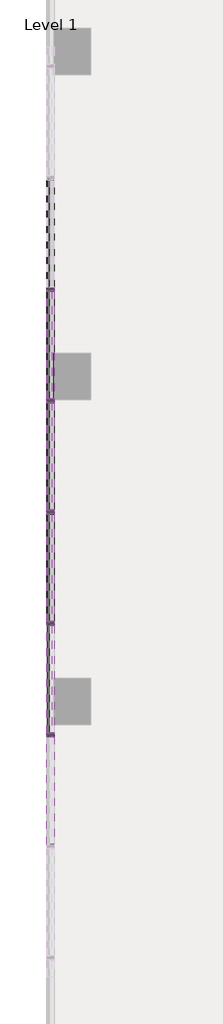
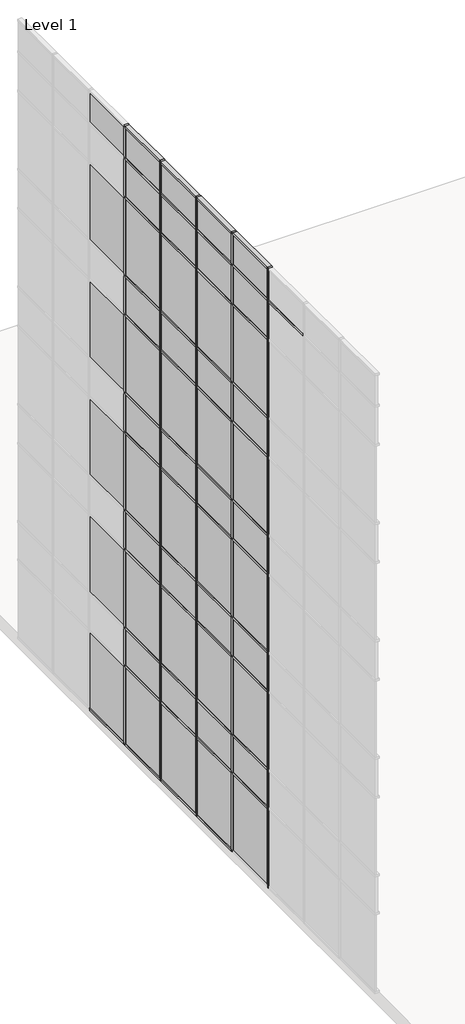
# One storey, part 3 of 23: 79 members, 50 plates.
"""IFC4 building model written with IfcOpenShell, lengths in millimetres."""

from ifc_helpers import new_model, si_unit, origin, place, context, project, spatial, transform, mapped, element, save
from components import member_f92b8aa2, member_810865a4, member_6d5c3e5e, member_9764dd38, system_panel_glazed_14c75400, system_panel_solid_5dfe6f83, system_panel_solid_e25e2004, system_panel_solid_b7551183

model = new_model("IFC4")

# Units and contexts
model_context = context("Model", 3, world=origin())
ifc_project = project(units=[si_unit("LENGTHUNIT", "METRE", prefix="MILLI")], contexts=[model_context])

# Site, building, storey
site = spatial("IfcSite", under=ifc_project)
building = spatial("IfcBuilding", under=site)
storey = spatial("IfcBuildingStorey", under=building, Name="Level 1", Elevation=0.0)

# Members
placement = place(None, origin())
member_shape = member_f92b8aa2(model_context)
element("IfcMember", 1, ObjectType="Rectangular Mullion : 2.5\" x 5\" rectangular", at=placement, inside=storey, context=model_context, shape_type="MappedRepresentation", body=[
    mapped(member_shape, transform((-68724.2599961, -14912.3103492, 18288.0), x_axis=(0.0, 1.0, 0.0), y_axis=(1.0, 0.0, 0.0), z_axis=(0.0, 0.0, -1.0))),
])
element("IfcMember", 2, ObjectType="Rectangular Mullion : 2.5\" x 5\" rectangular", at=placement, inside=storey, context=model_context, shape_type="MappedRepresentation", body=[
    mapped(member_shape, transform((-68724.2599961, -13083.5103492, 18288.0), x_axis=(0.0, 1.0, 0.0), y_axis=(1.0, 0.0, 0.0), z_axis=(0.0, 0.0, -1.0))),
])
element("IfcMember", 3, ObjectType="Rectangular Mullion : 2.5\" x 5\" rectangular", at=placement, inside=storey, context=model_context, shape_type="MappedRepresentation", body=[
    mapped(member_shape, transform((-68724.2599961, -11254.7103492, 18288.0), x_axis=(0.0, 1.0, 0.0), y_axis=(1.0, 0.0, 0.0), z_axis=(0.0, 0.0, -1.0))),
])
element("IfcMember", 4, ObjectType="Rectangular Mullion : 2.5\" x 5\" rectangular", at=placement, inside=storey, context=model_context, shape_type="MappedRepresentation", body=[
    mapped(member_shape, transform((-68724.2599961, -9425.9103492, 18288.0), x_axis=(0.0, 1.0, 0.0), y_axis=(1.0, 0.0, 0.0), z_axis=(0.0, 0.0, -1.0))),
])
element("IfcMember", 5, ObjectType="Rectangular Mullion : 2.5\" x 5\" rectangular", at=placement, inside=storey, context=model_context, shape_type="MappedRepresentation", body=[
    mapped(member_shape, transform((-68724.2599961, -7597.1103492, 18288.0), x_axis=(0.0, 1.0, 0.0), y_axis=(1.0, 0.0, 0.0), z_axis=(0.0, 0.0, -1.0))),
])
member_2_shape = member_810865a4(model_context)
element("IfcMember", 6, ObjectType="Rectangular Mullion : 2.5\" x 5\" rectangular", at=placement, inside=storey, context=model_context, shape_type="MappedRepresentation", body=[
    mapped(member_2_shape, transform((-68724.2599961, -14912.3103492, 3657.6), x_axis=(0.0, 1.0, 0.0), y_axis=(1.0, 0.0, 0.0), z_axis=(0.0, 0.0, -1.0))),
])
element("IfcMember", 7, ObjectType="Rectangular Mullion : 2.5\" x 5\" rectangular", at=placement, inside=storey, context=model_context, shape_type="MappedRepresentation", body=[
    mapped(member_2_shape, transform((-68724.2599961, -13083.5103492, 3657.6), x_axis=(0.0, 1.0, 0.0), y_axis=(1.0, 0.0, 0.0), z_axis=(0.0, 0.0, -1.0))),
])
element("IfcMember", 8, ObjectType="Rectangular Mullion : 2.5\" x 5\" rectangular", at=placement, inside=storey, context=model_context, shape_type="MappedRepresentation", body=[
    mapped(member_2_shape, transform((-68724.2599961, -11254.7103492, 3657.6), x_axis=(0.0, 1.0, 0.0), y_axis=(1.0, 0.0, 0.0), z_axis=(0.0, 0.0, -1.0))),
])
element("IfcMember", 9, ObjectType="Rectangular Mullion : 2.5\" x 5\" rectangular", at=placement, inside=storey, context=model_context, shape_type="MappedRepresentation", body=[
    mapped(member_2_shape, transform((-68724.2599961, -9425.9103492, 3657.6), x_axis=(0.0, 1.0, 0.0), y_axis=(1.0, 0.0, 0.0), z_axis=(0.0, 0.0, -1.0))),
])
element("IfcMember", 10, ObjectType="Rectangular Mullion : 2.5\" x 5\" rectangular", at=placement, inside=storey, context=model_context, shape_type="MappedRepresentation", body=[
    mapped(member_2_shape, transform((-68724.2599961, -7597.1103492, 3657.6), x_axis=(0.0, 1.0, 0.0), y_axis=(1.0, 0.0, 0.0), z_axis=(0.0, 0.0, -1.0))),
])
element("IfcMember", 11, ObjectType="Rectangular Mullion : 2.5\" x 5\" rectangular", at=placement, inside=storey, context=model_context, shape_type="MappedRepresentation", body=[
    mapped(member_2_shape, transform((-68724.2599961, -14912.3103492, 7315.2), x_axis=(0.0, 1.0, 0.0), y_axis=(1.0, 0.0, 0.0), z_axis=(0.0, 0.0, -1.0))),
])
element("IfcMember", 12, ObjectType="Rectangular Mullion : 2.5\" x 5\" rectangular", at=placement, inside=storey, context=model_context, shape_type="MappedRepresentation", body=[
    mapped(member_2_shape, transform((-68724.2599961, -13083.5103492, 7315.2), x_axis=(0.0, 1.0, 0.0), y_axis=(1.0, 0.0, 0.0), z_axis=(0.0, 0.0, -1.0))),
])
element("IfcMember", 13, ObjectType="Rectangular Mullion : 2.5\" x 5\" rectangular", at=placement, inside=storey, context=model_context, shape_type="MappedRepresentation", body=[
    mapped(member_2_shape, transform((-68724.2599961, -11254.7103492, 7315.2), x_axis=(0.0, 1.0, 0.0), y_axis=(1.0, 0.0, 0.0), z_axis=(0.0, 0.0, -1.0))),
])
element("IfcMember", 14, ObjectType="Rectangular Mullion : 2.5\" x 5\" rectangular", at=placement, inside=storey, context=model_context, shape_type="MappedRepresentation", body=[
    mapped(member_2_shape, transform((-68724.2599961, -9425.9103492, 7315.2), x_axis=(0.0, 1.0, 0.0), y_axis=(1.0, 0.0, 0.0), z_axis=(0.0, 0.0, -1.0))),
])
element("IfcMember", 15, ObjectType="Rectangular Mullion : 2.5\" x 5\" rectangular", at=placement, inside=storey, context=model_context, shape_type="MappedRepresentation", body=[
    mapped(member_2_shape, transform((-68724.2599961, -7597.1103492, 7315.2), x_axis=(0.0, 1.0, 0.0), y_axis=(1.0, 0.0, 0.0), z_axis=(0.0, 0.0, -1.0))),
])
element("IfcMember", 16, ObjectType="Rectangular Mullion : 2.5\" x 5\" rectangular", at=placement, inside=storey, context=model_context, shape_type="MappedRepresentation", body=[
    mapped(member_2_shape, transform((-68724.2599961, -14912.3103492, 10972.8), x_axis=(0.0, 1.0, 0.0), y_axis=(1.0, 0.0, 0.0), z_axis=(0.0, 0.0, -1.0))),
])
element("IfcMember", 17, ObjectType="Rectangular Mullion : 2.5\" x 5\" rectangular", at=placement, inside=storey, context=model_context, shape_type="MappedRepresentation", body=[
    mapped(member_2_shape, transform((-68724.2599961, -13083.5103492, 10972.8), x_axis=(0.0, 1.0, 0.0), y_axis=(1.0, 0.0, 0.0), z_axis=(0.0, 0.0, -1.0))),
])
element("IfcMember", 18, ObjectType="Rectangular Mullion : 2.5\" x 5\" rectangular", at=placement, inside=storey, context=model_context, shape_type="MappedRepresentation", body=[
    mapped(member_2_shape, transform((-68724.2599961, -11254.7103492, 10972.8), x_axis=(0.0, 1.0, 0.0), y_axis=(1.0, 0.0, 0.0), z_axis=(0.0, 0.0, -1.0))),
])
element("IfcMember", 19, ObjectType="Rectangular Mullion : 2.5\" x 5\" rectangular", at=placement, inside=storey, context=model_context, shape_type="MappedRepresentation", body=[
    mapped(member_2_shape, transform((-68724.2599961, -9425.9103492, 10972.8), x_axis=(0.0, 1.0, 0.0), y_axis=(1.0, 0.0, 0.0), z_axis=(0.0, 0.0, -1.0))),
])
element("IfcMember", 20, ObjectType="Rectangular Mullion : 2.5\" x 5\" rectangular", at=placement, inside=storey, context=model_context, shape_type="MappedRepresentation", body=[
    mapped(member_2_shape, transform((-68724.2599961, -7597.1103492, 10972.8), x_axis=(0.0, 1.0, 0.0), y_axis=(1.0, 0.0, 0.0), z_axis=(0.0, 0.0, -1.0))),
])
element("IfcMember", 21, ObjectType="Rectangular Mullion : 2.5\" x 5\" rectangular", at=placement, inside=storey, context=model_context, shape_type="MappedRepresentation", body=[
    mapped(member_2_shape, transform((-68724.2599961, -14912.3103492, 14630.4), x_axis=(0.0, 1.0, 0.0), y_axis=(1.0, 0.0, 0.0), z_axis=(0.0, 0.0, -1.0))),
])
element("IfcMember", 22, ObjectType="Rectangular Mullion : 2.5\" x 5\" rectangular", at=placement, inside=storey, context=model_context, shape_type="MappedRepresentation", body=[
    mapped(member_2_shape, transform((-68724.2599961, -13083.5103492, 14630.4), x_axis=(0.0, 1.0, 0.0), y_axis=(1.0, 0.0, 0.0), z_axis=(0.0, 0.0, -1.0))),
])
element("IfcMember", 23, ObjectType="Rectangular Mullion : 2.5\" x 5\" rectangular", at=placement, inside=storey, context=model_context, shape_type="MappedRepresentation", body=[
    mapped(member_2_shape, transform((-68724.2599961, -11254.7103492, 14630.4), x_axis=(0.0, 1.0, 0.0), y_axis=(1.0, 0.0, 0.0), z_axis=(0.0, 0.0, -1.0))),
])
element("IfcMember", 24, ObjectType="Rectangular Mullion : 2.5\" x 5\" rectangular", at=placement, inside=storey, context=model_context, shape_type="MappedRepresentation", body=[
    mapped(member_2_shape, transform((-68724.2599961, -9425.9103492, 14630.4), x_axis=(0.0, 1.0, 0.0), y_axis=(1.0, 0.0, 0.0), z_axis=(0.0, 0.0, -1.0))),
])
element("IfcMember", 25, ObjectType="Rectangular Mullion : 2.5\" x 5\" rectangular", at=placement, inside=storey, context=model_context, shape_type="MappedRepresentation", body=[
    mapped(member_2_shape, transform((-68724.2599961, -7597.1103492, 14630.4), x_axis=(0.0, 1.0, 0.0), y_axis=(1.0, 0.0, 0.0), z_axis=(0.0, 0.0, -1.0))),
])
member_3_shape = member_6d5c3e5e(model_context)
element("IfcMember", 26, ObjectType="Rectangular Mullion : 2.5\" x 5\" rectangular", at=placement, inside=storey, context=model_context, shape_type="MappedRepresentation", body=[
    mapped(member_3_shape, transform((-68724.2599961, -13115.2603492, 19304.0), x_axis=(0.0, 0.0, 1.0), y_axis=(1.0, 0.0, 0.0), z_axis=(0.0, 1.0, 0.0))),
])
element("IfcMember", 27, ObjectType="Rectangular Mullion : 2.5\" x 5\" rectangular", at=placement, inside=storey, context=model_context, shape_type="MappedRepresentation", body=[
    mapped(member_3_shape, transform((-68724.2599961, -11286.4603492, 19304.0), x_axis=(0.0, 0.0, 1.0), y_axis=(1.0, 0.0, 0.0), z_axis=(0.0, 1.0, 0.0))),
])
element("IfcMember", 28, ObjectType="Rectangular Mullion : 2.5\" x 5\" rectangular", at=placement, inside=storey, context=model_context, shape_type="MappedRepresentation", body=[
    mapped(member_3_shape, transform((-68724.2599961, -9457.6603492, 19304.0), x_axis=(0.0, 0.0, 1.0), y_axis=(1.0, 0.0, 0.0), z_axis=(0.0, 1.0, 0.0))),
])
element("IfcMember", 29, ObjectType="Rectangular Mullion : 2.5\" x 5\" rectangular", at=placement, inside=storey, context=model_context, shape_type="MappedRepresentation", body=[
    mapped(member_3_shape, transform((-68724.2599961, -7628.8603492, 19304.0), x_axis=(0.0, 0.0, 1.0), y_axis=(1.0, 0.0, 0.0), z_axis=(0.0, 1.0, 0.0))),
])
member_4_shape = member_9764dd38(model_context)
element("IfcMember", 30, ObjectType="Rectangular Mullion : 2.5\" x 5\" rectangular", at=placement, inside=storey, context=model_context, shape_type="MappedRepresentation", body=[
    mapped(member_4_shape, transform((-68724.2599961, -7628.8603492, 17068.8), x_axis=(0.0, 0.0, 1.0), y_axis=(1.0, 0.0, 0.0), z_axis=(0.0, 1.0, 0.0))),
])
element("IfcMember", 31, ObjectType="Rectangular Mullion : 2.5\" x 5\" rectangular", at=placement, inside=storey, context=model_context, shape_type="MappedRepresentation", body=[
    mapped(member_4_shape, transform((-68724.2599961, -9457.6603492, 17068.8), x_axis=(0.0, 0.0, 1.0), y_axis=(1.0, 0.0, 0.0), z_axis=(0.0, 1.0, 0.0))),
])
element("IfcMember", 32, ObjectType="Rectangular Mullion : 2.5\" x 5\" rectangular", at=placement, inside=storey, context=model_context, shape_type="MappedRepresentation", body=[
    mapped(member_4_shape, transform((-68724.2599961, -11286.4603492, 17068.8), x_axis=(0.0, 0.0, 1.0), y_axis=(1.0, 0.0, 0.0), z_axis=(0.0, 1.0, 0.0))),
])
element("IfcMember", 33, ObjectType="Rectangular Mullion : 2.5\" x 5\" rectangular", at=placement, inside=storey, context=model_context, shape_type="MappedRepresentation", body=[
    mapped(member_4_shape, transform((-68724.2599961, -13115.2603492, 17068.8), x_axis=(0.0, 0.0, 1.0), y_axis=(1.0, 0.0, 0.0), z_axis=(0.0, 1.0, 0.0))),
])
element("IfcMember", 34, ObjectType="Rectangular Mullion : 2.5\" x 5\" rectangular", at=placement, inside=storey, context=model_context, shape_type="MappedRepresentation", body=[
    mapped(member_4_shape, transform((-68724.2599961, -7628.8603492, 13411.2), x_axis=(0.0, 0.0, 1.0), y_axis=(1.0, 0.0, 0.0), z_axis=(0.0, 1.0, 0.0))),
])
element("IfcMember", 35, ObjectType="Rectangular Mullion : 2.5\" x 5\" rectangular", at=placement, inside=storey, context=model_context, shape_type="MappedRepresentation", body=[
    mapped(member_4_shape, transform((-68724.2599961, -9457.6603492, 13411.2), x_axis=(0.0, 0.0, 1.0), y_axis=(1.0, 0.0, 0.0), z_axis=(0.0, 1.0, 0.0))),
])
element("IfcMember", 36, ObjectType="Rectangular Mullion : 2.5\" x 5\" rectangular", at=placement, inside=storey, context=model_context, shape_type="MappedRepresentation", body=[
    mapped(member_4_shape, transform((-68724.2599961, -11286.4603492, 13411.2), x_axis=(0.0, 0.0, 1.0), y_axis=(1.0, 0.0, 0.0), z_axis=(0.0, 1.0, 0.0))),
])
element("IfcMember", 37, ObjectType="Rectangular Mullion : 2.5\" x 5\" rectangular", at=placement, inside=storey, context=model_context, shape_type="MappedRepresentation", body=[
    mapped(member_4_shape, transform((-68724.2599961, -13115.2603492, 13411.2), x_axis=(0.0, 0.0, 1.0), y_axis=(1.0, 0.0, 0.0), z_axis=(0.0, 1.0, 0.0))),
])
element("IfcMember", 38, ObjectType="Rectangular Mullion : 2.5\" x 5\" rectangular", at=placement, inside=storey, context=model_context, shape_type="MappedRepresentation", body=[
    mapped(member_4_shape, transform((-68724.2599961, -7628.8603492, 9753.6), x_axis=(0.0, 0.0, 1.0), y_axis=(1.0, 0.0, 0.0), z_axis=(0.0, 1.0, 0.0))),
])
element("IfcMember", 39, ObjectType="Rectangular Mullion : 2.5\" x 5\" rectangular", at=placement, inside=storey, context=model_context, shape_type="MappedRepresentation", body=[
    mapped(member_4_shape, transform((-68724.2599961, -9457.6603492, 9753.6), x_axis=(0.0, 0.0, 1.0), y_axis=(1.0, 0.0, 0.0), z_axis=(0.0, 1.0, 0.0))),
])
element("IfcMember", 40, ObjectType="Rectangular Mullion : 2.5\" x 5\" rectangular", at=placement, inside=storey, context=model_context, shape_type="MappedRepresentation", body=[
    mapped(member_4_shape, transform((-68724.2599961, -11286.4603492, 9753.6), x_axis=(0.0, 0.0, 1.0), y_axis=(1.0, 0.0, 0.0), z_axis=(0.0, 1.0, 0.0))),
])
element("IfcMember", 41, ObjectType="Rectangular Mullion : 2.5\" x 5\" rectangular", at=placement, inside=storey, context=model_context, shape_type="MappedRepresentation", body=[
    mapped(member_4_shape, transform((-68724.2599961, -13115.2603492, 9753.6), x_axis=(0.0, 0.0, 1.0), y_axis=(1.0, 0.0, 0.0), z_axis=(0.0, 1.0, 0.0))),
])
element("IfcMember", 42, ObjectType="Rectangular Mullion : 2.5\" x 5\" rectangular", at=placement, inside=storey, context=model_context, shape_type="MappedRepresentation", body=[
    mapped(member_4_shape, transform((-68724.2599961, -7628.8603492, 6096.0), x_axis=(0.0, 0.0, 1.0), y_axis=(1.0, 0.0, 0.0), z_axis=(0.0, 1.0, 0.0))),
])
element("IfcMember", 43, ObjectType="Rectangular Mullion : 2.5\" x 5\" rectangular", at=placement, inside=storey, context=model_context, shape_type="MappedRepresentation", body=[
    mapped(member_4_shape, transform((-68724.2599961, -9457.6603492, 6096.0), x_axis=(0.0, 0.0, 1.0), y_axis=(1.0, 0.0, 0.0), z_axis=(0.0, 1.0, 0.0))),
])
element("IfcMember", 44, ObjectType="Rectangular Mullion : 2.5\" x 5\" rectangular", at=placement, inside=storey, context=model_context, shape_type="MappedRepresentation", body=[
    mapped(member_4_shape, transform((-68724.2599961, -11286.4603492, 6096.0), x_axis=(0.0, 0.0, 1.0), y_axis=(1.0, 0.0, 0.0), z_axis=(0.0, 1.0, 0.0))),
])
element("IfcMember", 45, ObjectType="Rectangular Mullion : 2.5\" x 5\" rectangular", at=placement, inside=storey, context=model_context, shape_type="MappedRepresentation", body=[
    mapped(member_4_shape, transform((-68724.2599961, -13115.2603492, 6096.0), x_axis=(0.0, 0.0, 1.0), y_axis=(1.0, 0.0, 0.0), z_axis=(0.0, 1.0, 0.0))),
])
element("IfcMember", 46, ObjectType="Rectangular Mullion : 2.5\" x 5\" rectangular", at=placement, inside=storey, context=model_context, shape_type="MappedRepresentation", body=[
    mapped(member_4_shape, transform((-68724.2599961, -7628.8603492, 2470.15), x_axis=(0.0, 0.0, 1.0), y_axis=(1.0, 0.0, 0.0), z_axis=(0.0, 1.0, 0.0))),
])
element("IfcMember", 47, ObjectType="Rectangular Mullion : 2.5\" x 5\" rectangular", at=placement, inside=storey, context=model_context, shape_type="MappedRepresentation", body=[
    mapped(member_4_shape, transform((-68724.2599961, -9457.6603492, 2470.15), x_axis=(0.0, 0.0, 1.0), y_axis=(1.0, 0.0, 0.0), z_axis=(0.0, 1.0, 0.0))),
])
element("IfcMember", 48, ObjectType="Rectangular Mullion : 2.5\" x 5\" rectangular", at=placement, inside=storey, context=model_context, shape_type="MappedRepresentation", body=[
    mapped(member_4_shape, transform((-68724.2599961, -11286.4603492, 2470.15), x_axis=(0.0, 0.0, 1.0), y_axis=(1.0, 0.0, 0.0), z_axis=(0.0, 1.0, 0.0))),
])
element("IfcMember", 49, ObjectType="Rectangular Mullion : 2.5\" x 5\" rectangular", at=placement, inside=storey, context=model_context, shape_type="MappedRepresentation", body=[
    mapped(member_4_shape, transform((-68724.2599961, -13115.2603492, 2470.15), x_axis=(0.0, 0.0, 1.0), y_axis=(1.0, 0.0, 0.0), z_axis=(0.0, 1.0, 0.0))),
])
element("IfcMember", 50, ObjectType="Rectangular Mullion : 2.5\" x 5\" rectangular", at=placement, inside=storey, context=model_context, shape_type="MappedRepresentation", body=[
    mapped(member_2_shape, transform((-68724.2599961, -14912.3103492, 0.0), x_axis=(0.0, 1.0, 0.0), y_axis=(1.0, 0.0, 0.0), z_axis=(0.0, 0.0, -1.0))),
])
element("IfcMember", 51, ObjectType="Rectangular Mullion : 2.5\" x 5\" rectangular", at=placement, inside=storey, context=model_context, shape_type="MappedRepresentation", body=[
    mapped(member_2_shape, transform((-68724.2599961, -13083.5103492, 0.0), x_axis=(0.0, 1.0, 0.0), y_axis=(1.0, 0.0, 0.0), z_axis=(0.0, 0.0, -1.0))),
])
element("IfcMember", 52, ObjectType="Rectangular Mullion : 2.5\" x 5\" rectangular", at=placement, inside=storey, context=model_context, shape_type="MappedRepresentation", body=[
    mapped(member_2_shape, transform((-68724.2599961, -11254.7103492, 0.0), x_axis=(0.0, 1.0, 0.0), y_axis=(1.0, 0.0, 0.0), z_axis=(0.0, 0.0, -1.0))),
])
element("IfcMember", 53, ObjectType="Rectangular Mullion : 2.5\" x 5\" rectangular", at=placement, inside=storey, context=model_context, shape_type="MappedRepresentation", body=[
    mapped(member_2_shape, transform((-68724.2599961, -9425.9103492, 0.0), x_axis=(0.0, 1.0, 0.0), y_axis=(1.0, 0.0, 0.0), z_axis=(0.0, 0.0, -1.0))),
])
element("IfcMember", 54, ObjectType="Rectangular Mullion : 2.5\" x 5\" rectangular", at=placement, inside=storey, context=model_context, shape_type="MappedRepresentation", body=[
    mapped(member_2_shape, transform((-68724.2599961, -7597.1103492, 0.0), x_axis=(0.0, 1.0, 0.0), y_axis=(1.0, 0.0, 0.0), z_axis=(0.0, 0.0, -1.0))),
])
element("IfcMember", 55, ObjectType="Rectangular Mullion : 2.5\" x 5\" rectangular", at=placement, inside=storey, context=model_context, shape_type="MappedRepresentation", body=[
    mapped(member_3_shape, transform((-68724.2599961, -13051.7603492, 0.0), x_axis=(0.0, 0.0, -1.0), y_axis=(1.0, 0.0, 0.0), z_axis=(0.0, -1.0, 0.0))),
])
element("IfcMember", 56, ObjectType="Rectangular Mullion : 2.5\" x 5\" rectangular", at=placement, inside=storey, context=model_context, shape_type="MappedRepresentation", body=[
    mapped(member_3_shape, transform((-68724.2599961, -11222.9603492, 0.0), x_axis=(0.0, 0.0, -1.0), y_axis=(1.0, 0.0, 0.0), z_axis=(0.0, -1.0, 0.0))),
])
element("IfcMember", 57, ObjectType="Rectangular Mullion : 2.5\" x 5\" rectangular", at=placement, inside=storey, context=model_context, shape_type="MappedRepresentation", body=[
    mapped(member_3_shape, transform((-68724.2599961, -9394.1603492, 0.0), x_axis=(0.0, 0.0, -1.0), y_axis=(1.0, 0.0, 0.0), z_axis=(0.0, -1.0, 0.0))),
])
element("IfcMember", 58, ObjectType="Rectangular Mullion : 2.5\" x 5\" rectangular", at=placement, inside=storey, context=model_context, shape_type="MappedRepresentation", body=[
    mapped(member_3_shape, transform((-68724.2599961, -7565.3603492, 0.0), x_axis=(0.0, 0.0, -1.0), y_axis=(1.0, 0.0, 0.0), z_axis=(0.0, -1.0, 0.0))),
])
element("IfcMember", 59, ObjectType="Rectangular Mullion : 2.5\" x 5\" rectangular", at=placement, inside=storey, context=model_context, shape_type="MappedRepresentation", body=[
    mapped(member_4_shape, transform((-68724.2599961, -13115.2603492, 3657.6), x_axis=(0.0, 0.0, 1.0), y_axis=(1.0, 0.0, 0.0), z_axis=(0.0, 1.0, 0.0))),
])
element("IfcMember", 60, ObjectType="Rectangular Mullion : 2.5\" x 5\" rectangular", at=placement, inside=storey, context=model_context, shape_type="MappedRepresentation", body=[
    mapped(member_4_shape, transform((-68724.2599961, -11286.4603492, 3657.6), x_axis=(0.0, 0.0, 1.0), y_axis=(1.0, 0.0, 0.0), z_axis=(0.0, 1.0, 0.0))),
])
element("IfcMember", 61, ObjectType="Rectangular Mullion : 2.5\" x 5\" rectangular", at=placement, inside=storey, context=model_context, shape_type="MappedRepresentation", body=[
    mapped(member_4_shape, transform((-68724.2599961, -9457.6603492, 3657.6), x_axis=(0.0, 0.0, 1.0), y_axis=(1.0, 0.0, 0.0), z_axis=(0.0, 1.0, 0.0))),
])
element("IfcMember", 62, ObjectType="Rectangular Mullion : 2.5\" x 5\" rectangular", at=placement, inside=storey, context=model_context, shape_type="MappedRepresentation", body=[
    mapped(member_4_shape, transform((-68724.2599961, -7628.8603492, 3657.6), x_axis=(0.0, 0.0, 1.0), y_axis=(1.0, 0.0, 0.0), z_axis=(0.0, 1.0, 0.0))),
])
element("IfcMember", 63, ObjectType="Rectangular Mullion : 2.5\" x 5\" rectangular", at=placement, inside=storey, context=model_context, shape_type="MappedRepresentation", body=[
    mapped(member_4_shape, transform((-68724.2599961, -13115.2603492, 7315.2), x_axis=(0.0, 0.0, 1.0), y_axis=(1.0, 0.0, 0.0), z_axis=(0.0, 1.0, 0.0))),
])
element("IfcMember", 64, ObjectType="Rectangular Mullion : 2.5\" x 5\" rectangular", at=placement, inside=storey, context=model_context, shape_type="MappedRepresentation", body=[
    mapped(member_4_shape, transform((-68724.2599961, -11286.4603492, 7315.2), x_axis=(0.0, 0.0, 1.0), y_axis=(1.0, 0.0, 0.0), z_axis=(0.0, 1.0, 0.0))),
])
element("IfcMember", 65, ObjectType="Rectangular Mullion : 2.5\" x 5\" rectangular", at=placement, inside=storey, context=model_context, shape_type="MappedRepresentation", body=[
    mapped(member_4_shape, transform((-68724.2599961, -9457.6603492, 7315.2), x_axis=(0.0, 0.0, 1.0), y_axis=(1.0, 0.0, 0.0), z_axis=(0.0, 1.0, 0.0))),
])
element("IfcMember", 66, ObjectType="Rectangular Mullion : 2.5\" x 5\" rectangular", at=placement, inside=storey, context=model_context, shape_type="MappedRepresentation", body=[
    mapped(member_4_shape, transform((-68724.2599961, -7628.8603492, 7315.2), x_axis=(0.0, 0.0, 1.0), y_axis=(1.0, 0.0, 0.0), z_axis=(0.0, 1.0, 0.0))),
])
element("IfcMember", 67, ObjectType="Rectangular Mullion : 2.5\" x 5\" rectangular", at=placement, inside=storey, context=model_context, shape_type="MappedRepresentation", body=[
    mapped(member_4_shape, transform((-68724.2599961, -13115.2603492, 10972.8), x_axis=(0.0, 0.0, 1.0), y_axis=(1.0, 0.0, 0.0), z_axis=(0.0, 1.0, 0.0))),
])
element("IfcMember", 68, ObjectType="Rectangular Mullion : 2.5\" x 5\" rectangular", at=placement, inside=storey, context=model_context, shape_type="MappedRepresentation", body=[
    mapped(member_4_shape, transform((-68724.2599961, -11286.4603492, 10972.8), x_axis=(0.0, 0.0, 1.0), y_axis=(1.0, 0.0, 0.0), z_axis=(0.0, 1.0, 0.0))),
])
element("IfcMember", 69, ObjectType="Rectangular Mullion : 2.5\" x 5\" rectangular", at=placement, inside=storey, context=model_context, shape_type="MappedRepresentation", body=[
    mapped(member_4_shape, transform((-68724.2599961, -9457.6603492, 10972.8), x_axis=(0.0, 0.0, 1.0), y_axis=(1.0, 0.0, 0.0), z_axis=(0.0, 1.0, 0.0))),
])
element("IfcMember", 70, ObjectType="Rectangular Mullion : 2.5\" x 5\" rectangular", at=placement, inside=storey, context=model_context, shape_type="MappedRepresentation", body=[
    mapped(member_4_shape, transform((-68724.2599961, -7628.8603492, 10972.8), x_axis=(0.0, 0.0, 1.0), y_axis=(1.0, 0.0, 0.0), z_axis=(0.0, 1.0, 0.0))),
])
element("IfcMember", 71, ObjectType="Rectangular Mullion : 2.5\" x 5\" rectangular", at=placement, inside=storey, context=model_context, shape_type="MappedRepresentation", body=[
    mapped(member_4_shape, transform((-68724.2599961, -13115.2603492, 14630.4), x_axis=(0.0, 0.0, 1.0), y_axis=(1.0, 0.0, 0.0), z_axis=(0.0, 1.0, 0.0))),
])
element("IfcMember", 72, ObjectType="Rectangular Mullion : 2.5\" x 5\" rectangular", at=placement, inside=storey, context=model_context, shape_type="MappedRepresentation", body=[
    mapped(member_4_shape, transform((-68724.2599961, -11286.4603492, 14630.4), x_axis=(0.0, 0.0, 1.0), y_axis=(1.0, 0.0, 0.0), z_axis=(0.0, 1.0, 0.0))),
])
element("IfcMember", 73, ObjectType="Rectangular Mullion : 2.5\" x 5\" rectangular", at=placement, inside=storey, context=model_context, shape_type="MappedRepresentation", body=[
    mapped(member_4_shape, transform((-68724.2599961, -9457.6603492, 14630.4), x_axis=(0.0, 0.0, 1.0), y_axis=(1.0, 0.0, 0.0), z_axis=(0.0, 1.0, 0.0))),
])
element("IfcMember", 74, ObjectType="Rectangular Mullion : 2.5\" x 5\" rectangular", at=placement, inside=storey, context=model_context, shape_type="MappedRepresentation", body=[
    mapped(member_4_shape, transform((-68724.2599961, -7628.8603492, 14630.4), x_axis=(0.0, 0.0, 1.0), y_axis=(1.0, 0.0, 0.0), z_axis=(0.0, 1.0, 0.0))),
])
element("IfcMember", 75, ObjectType="Rectangular Mullion : 2.5\" x 5\" rectangular", at=placement, inside=storey, context=model_context, shape_type="MappedRepresentation", body=[
    mapped(member_4_shape, transform((-68724.2599961, -14944.0603492, 18288.0), x_axis=(0.0, 0.0, 1.0), y_axis=(1.0, 0.0, 0.0), z_axis=(0.0, 1.0, 0.0))),
])
element("IfcMember", 76, ObjectType="Rectangular Mullion : 2.5\" x 5\" rectangular", at=placement, inside=storey, context=model_context, shape_type="MappedRepresentation", body=[
    mapped(member_4_shape, transform((-68724.2599961, -13115.2603492, 18288.0), x_axis=(0.0, 0.0, 1.0), y_axis=(1.0, 0.0, 0.0), z_axis=(0.0, 1.0, 0.0))),
])
element("IfcMember", 77, ObjectType="Rectangular Mullion : 2.5\" x 5\" rectangular", at=placement, inside=storey, context=model_context, shape_type="MappedRepresentation", body=[
    mapped(member_4_shape, transform((-68724.2599961, -11286.4603492, 18288.0), x_axis=(0.0, 0.0, 1.0), y_axis=(1.0, 0.0, 0.0), z_axis=(0.0, 1.0, 0.0))),
])
element("IfcMember", 78, ObjectType="Rectangular Mullion : 2.5\" x 5\" rectangular", at=placement, inside=storey, context=model_context, shape_type="MappedRepresentation", body=[
    mapped(member_4_shape, transform((-68724.2599961, -9457.6603492, 18288.0), x_axis=(0.0, 0.0, 1.0), y_axis=(1.0, 0.0, 0.0), z_axis=(0.0, 1.0, 0.0))),
])
element("IfcMember", 79, ObjectType="Rectangular Mullion : 2.5\" x 5\" rectangular", at=placement, inside=storey, context=model_context, shape_type="MappedRepresentation", body=[
    mapped(member_4_shape, transform((-68724.2599961, -7628.8603492, 18288.0), x_axis=(0.0, 0.0, 1.0), y_axis=(1.0, 0.0, 0.0), z_axis=(0.0, 1.0, 0.0))),
])

# Plates
system_panel_glazed_shape = system_panel_glazed_14c75400(model_context)
element("IfcPlate", 80, ObjectType="System Panel : Glazed", at=placement, inside=storey, context=model_context, shape_type="MappedRepresentation", body=[
    mapped(system_panel_glazed_shape, transform((-68724.2599961, -6682.7103492, 14662.15), x_axis=(0.0, 1.0, 0.0), y_axis=(-1.0, 0.0, 0.0), z_axis=(0.0, 0.0, 1.0))),
])
element("IfcPlate", 81, ObjectType="System Panel : Glazed", at=placement, inside=storey, context=model_context, shape_type="MappedRepresentation", body=[
    mapped(system_panel_glazed_shape, transform((-68724.2599961, -8511.5103492, 14662.15), x_axis=(0.0, 1.0, 0.0), y_axis=(-1.0, 0.0, 0.0), z_axis=(0.0, 0.0, 1.0))),
])
element("IfcPlate", 82, ObjectType="System Panel : Glazed", at=placement, inside=storey, context=model_context, shape_type="MappedRepresentation", body=[
    mapped(system_panel_glazed_shape, transform((-68724.2599961, -10340.3103492, 14662.15), x_axis=(0.0, 1.0, 0.0), y_axis=(-1.0, 0.0, 0.0), z_axis=(0.0, 0.0, 1.0))),
])
element("IfcPlate", 83, ObjectType="System Panel : Glazed", at=placement, inside=storey, context=model_context, shape_type="MappedRepresentation", body=[
    mapped(system_panel_glazed_shape, transform((-68724.2599961, -12169.1103492, 14662.15), x_axis=(0.0, 1.0, 0.0), y_axis=(-1.0, 0.0, 0.0), z_axis=(0.0, 0.0, 1.0))),
])
element("IfcPlate", 84, ObjectType="System Panel : Glazed", at=placement, inside=storey, context=model_context, shape_type="MappedRepresentation", body=[
    mapped(system_panel_glazed_shape, transform((-68724.2599961, -13997.9103492, 14662.15), x_axis=(0.0, 1.0, 0.0), y_axis=(-1.0, 0.0, 0.0), z_axis=(0.0, 0.0, 1.0))),
])
element("IfcPlate", 85, ObjectType="System Panel : Glazed", at=placement, inside=storey, context=model_context, shape_type="MappedRepresentation", body=[
    mapped(system_panel_glazed_shape, transform((-68724.2599961, -6682.7103492, 11004.55), x_axis=(0.0, 1.0, 0.0), y_axis=(-1.0, 0.0, 0.0), z_axis=(0.0, 0.0, 1.0))),
])
element("IfcPlate", 86, ObjectType="System Panel : Glazed", at=placement, inside=storey, context=model_context, shape_type="MappedRepresentation", body=[
    mapped(system_panel_glazed_shape, transform((-68724.2599961, -8511.5103492, 11004.55), x_axis=(0.0, 1.0, 0.0), y_axis=(-1.0, 0.0, 0.0), z_axis=(0.0, 0.0, 1.0))),
])
element("IfcPlate", 87, ObjectType="System Panel : Glazed", at=placement, inside=storey, context=model_context, shape_type="MappedRepresentation", body=[
    mapped(system_panel_glazed_shape, transform((-68724.2599961, -10340.3103492, 11004.55), x_axis=(0.0, 1.0, 0.0), y_axis=(-1.0, 0.0, 0.0), z_axis=(0.0, 0.0, 1.0))),
])
element("IfcPlate", 88, ObjectType="System Panel : Glazed", at=placement, inside=storey, context=model_context, shape_type="MappedRepresentation", body=[
    mapped(system_panel_glazed_shape, transform((-68724.2599961, -12169.1103492, 11004.55), x_axis=(0.0, 1.0, 0.0), y_axis=(-1.0, 0.0, 0.0), z_axis=(0.0, 0.0, 1.0))),
])
element("IfcPlate", 89, ObjectType="System Panel : Glazed", at=placement, inside=storey, context=model_context, shape_type="MappedRepresentation", body=[
    mapped(system_panel_glazed_shape, transform((-68724.2599961, -13997.9103492, 11004.55), x_axis=(0.0, 1.0, 0.0), y_axis=(-1.0, 0.0, 0.0), z_axis=(0.0, 0.0, 1.0))),
])
element("IfcPlate", 90, ObjectType="System Panel : Glazed", at=placement, inside=storey, context=model_context, shape_type="MappedRepresentation", body=[
    mapped(system_panel_glazed_shape, transform((-68724.2599961, -6682.7103492, 7346.95), x_axis=(0.0, 1.0, 0.0), y_axis=(-1.0, 0.0, 0.0), z_axis=(0.0, 0.0, 1.0))),
])
element("IfcPlate", 91, ObjectType="System Panel : Glazed", at=placement, inside=storey, context=model_context, shape_type="MappedRepresentation", body=[
    mapped(system_panel_glazed_shape, transform((-68724.2599961, -8511.5103492, 7346.95), x_axis=(0.0, 1.0, 0.0), y_axis=(-1.0, 0.0, 0.0), z_axis=(0.0, 0.0, 1.0))),
])
element("IfcPlate", 92, ObjectType="System Panel : Glazed", at=placement, inside=storey, context=model_context, shape_type="MappedRepresentation", body=[
    mapped(system_panel_glazed_shape, transform((-68724.2599961, -10340.3103492, 7346.95), x_axis=(0.0, 1.0, 0.0), y_axis=(-1.0, 0.0, 0.0), z_axis=(0.0, 0.0, 1.0))),
])
element("IfcPlate", 93, ObjectType="System Panel : Glazed", at=placement, inside=storey, context=model_context, shape_type="MappedRepresentation", body=[
    mapped(system_panel_glazed_shape, transform((-68724.2599961, -12169.1103492, 7346.95), x_axis=(0.0, 1.0, 0.0), y_axis=(-1.0, 0.0, 0.0), z_axis=(0.0, 0.0, 1.0))),
])
element("IfcPlate", 94, ObjectType="System Panel : Glazed", at=placement, inside=storey, context=model_context, shape_type="MappedRepresentation", body=[
    mapped(system_panel_glazed_shape, transform((-68724.2599961, -13997.9103492, 7346.95), x_axis=(0.0, 1.0, 0.0), y_axis=(-1.0, 0.0, 0.0), z_axis=(0.0, 0.0, 1.0))),
])
element("IfcPlate", 95, ObjectType="System Panel : Glazed", at=placement, inside=storey, context=model_context, shape_type="MappedRepresentation", body=[
    mapped(system_panel_glazed_shape, transform((-68724.2599961, -6682.7103492, 3689.35), x_axis=(0.0, 1.0, 0.0), y_axis=(-1.0, 0.0, 0.0), z_axis=(0.0, 0.0, 1.0))),
])
element("IfcPlate", 96, ObjectType="System Panel : Glazed", at=placement, inside=storey, context=model_context, shape_type="MappedRepresentation", body=[
    mapped(system_panel_glazed_shape, transform((-68724.2599961, -8511.5103492, 3689.35), x_axis=(0.0, 1.0, 0.0), y_axis=(-1.0, 0.0, 0.0), z_axis=(0.0, 0.0, 1.0))),
])
element("IfcPlate", 97, ObjectType="System Panel : Glazed", at=placement, inside=storey, context=model_context, shape_type="MappedRepresentation", body=[
    mapped(system_panel_glazed_shape, transform((-68724.2599961, -10340.3103492, 3689.35), x_axis=(0.0, 1.0, 0.0), y_axis=(-1.0, 0.0, 0.0), z_axis=(0.0, 0.0, 1.0))),
])
element("IfcPlate", 98, ObjectType="System Panel : Glazed", at=placement, inside=storey, context=model_context, shape_type="MappedRepresentation", body=[
    mapped(system_panel_glazed_shape, transform((-68724.2599961, -12169.1103492, 3689.35), x_axis=(0.0, 1.0, 0.0), y_axis=(-1.0, 0.0, 0.0), z_axis=(0.0, 0.0, 1.0))),
])
element("IfcPlate", 99, ObjectType="System Panel : Glazed", at=placement, inside=storey, context=model_context, shape_type="MappedRepresentation", body=[
    mapped(system_panel_glazed_shape, transform((-68724.2599961, -13997.9103492, 3689.35), x_axis=(0.0, 1.0, 0.0), y_axis=(-1.0, 0.0, 0.0), z_axis=(0.0, 0.0, 1.0))),
])
element("IfcPlate", 100, ObjectType="System Panel : Glazed", at=placement, inside=storey, context=model_context, shape_type="MappedRepresentation", body=[
    mapped(system_panel_glazed_shape, transform((-68724.2599961, -6682.7103492, 63.5), x_axis=(0.0, 1.0, 0.0), y_axis=(-1.0, 0.0, 0.0), z_axis=(0.0, 0.0, 1.0))),
])
element("IfcPlate", 101, ObjectType="System Panel : Glazed", at=placement, inside=storey, context=model_context, shape_type="MappedRepresentation", body=[
    mapped(system_panel_glazed_shape, transform((-68724.2599961, -8511.5103492, 63.5), x_axis=(0.0, 1.0, 0.0), y_axis=(-1.0, 0.0, 0.0), z_axis=(0.0, 0.0, 1.0))),
])
element("IfcPlate", 102, ObjectType="System Panel : Glazed", at=placement, inside=storey, context=model_context, shape_type="MappedRepresentation", body=[
    mapped(system_panel_glazed_shape, transform((-68724.2599961, -10340.3103492, 63.5), x_axis=(0.0, 1.0, 0.0), y_axis=(-1.0, 0.0, 0.0), z_axis=(0.0, 0.0, 1.0))),
])
element("IfcPlate", 103, ObjectType="System Panel : Glazed", at=placement, inside=storey, context=model_context, shape_type="MappedRepresentation", body=[
    mapped(system_panel_glazed_shape, transform((-68724.2599961, -12169.1103492, 63.5), x_axis=(0.0, 1.0, 0.0), y_axis=(-1.0, 0.0, 0.0), z_axis=(0.0, 0.0, 1.0))),
])
element("IfcPlate", 104, ObjectType="System Panel : Glazed", at=placement, inside=storey, context=model_context, shape_type="MappedRepresentation", body=[
    mapped(system_panel_glazed_shape, transform((-68724.2599961, -13997.9103492, 63.5), x_axis=(0.0, 1.0, 0.0), y_axis=(-1.0, 0.0, 0.0), z_axis=(0.0, 0.0, 1.0))),
])
system_panel_solid_shape = system_panel_solid_5dfe6f83(model_context)
element("IfcPlate", 105, ObjectType="System Panel : Solid", at=placement, inside=storey, context=model_context, shape_type="MappedRepresentation", body=[
    mapped(system_panel_solid_shape, transform((-68724.2599961, -13997.9103492, 18319.75), x_axis=(0.0, 1.0, 0.0), y_axis=(-1.0, 0.0, 0.0), z_axis=(0.0, 0.0, 1.0))),
])
element("IfcPlate", 106, ObjectType="System Panel : Solid", at=placement, inside=storey, context=model_context, shape_type="MappedRepresentation", body=[
    mapped(system_panel_solid_shape, transform((-68724.2599961, -12169.1103492, 18319.75), x_axis=(0.0, 1.0, 0.0), y_axis=(-1.0, 0.0, 0.0), z_axis=(0.0, 0.0, 1.0))),
])
element("IfcPlate", 107, ObjectType="System Panel : Solid", at=placement, inside=storey, context=model_context, shape_type="MappedRepresentation", body=[
    mapped(system_panel_solid_shape, transform((-68724.2599961, -10340.3103492, 18319.75), x_axis=(0.0, 1.0, 0.0), y_axis=(-1.0, 0.0, 0.0), z_axis=(0.0, 0.0, 1.0))),
])
element("IfcPlate", 108, ObjectType="System Panel : Solid", at=placement, inside=storey, context=model_context, shape_type="MappedRepresentation", body=[
    mapped(system_panel_solid_shape, transform((-68724.2599961, -8511.5103492, 18319.75), x_axis=(0.0, 1.0, 0.0), y_axis=(-1.0, 0.0, 0.0), z_axis=(0.0, 0.0, 1.0))),
])
element("IfcPlate", 109, ObjectType="System Panel : Solid", at=placement, inside=storey, context=model_context, shape_type="MappedRepresentation", body=[
    mapped(system_panel_solid_shape, transform((-68724.2599961, -6682.7103492, 18319.75), x_axis=(0.0, 1.0, 0.0), y_axis=(-1.0, 0.0, 0.0), z_axis=(0.0, 0.0, 1.0))),
])
system_panel_solid_2_shape = system_panel_solid_e25e2004(model_context)
element("IfcPlate", 110, ObjectType="System Panel : Solid", at=placement, inside=storey, context=model_context, shape_type="MappedRepresentation", body=[
    mapped(system_panel_solid_2_shape, transform((-68724.2599961, -8511.5103492, 17100.55), x_axis=(0.0, 1.0, 0.0), y_axis=(-1.0, 0.0, 0.0), z_axis=(0.0, 0.0, 1.0))),
])
element("IfcPlate", 111, ObjectType="System Panel : Solid", at=placement, inside=storey, context=model_context, shape_type="MappedRepresentation", body=[
    mapped(system_panel_solid_2_shape, transform((-68724.2599961, -10340.3103492, 17100.55), x_axis=(0.0, 1.0, 0.0), y_axis=(-1.0, 0.0, 0.0), z_axis=(0.0, 0.0, 1.0))),
])
element("IfcPlate", 112, ObjectType="System Panel : Solid", at=placement, inside=storey, context=model_context, shape_type="MappedRepresentation", body=[
    mapped(system_panel_solid_2_shape, transform((-68724.2599961, -12169.1103492, 17100.55), x_axis=(0.0, 1.0, 0.0), y_axis=(-1.0, 0.0, 0.0), z_axis=(0.0, 0.0, 1.0))),
])
element("IfcPlate", 113, ObjectType="System Panel : Solid", at=placement, inside=storey, context=model_context, shape_type="MappedRepresentation", body=[
    mapped(system_panel_solid_2_shape, transform((-68724.2599961, -13997.9103492, 17100.55), x_axis=(0.0, 1.0, 0.0), y_axis=(-1.0, 0.0, 0.0), z_axis=(0.0, 0.0, 1.0))),
])
element("IfcPlate", 114, ObjectType="System Panel : Solid", at=placement, inside=storey, context=model_context, shape_type="MappedRepresentation", body=[
    mapped(system_panel_solid_2_shape, transform((-68724.2599961, -8511.5103492, 13442.95), x_axis=(0.0, 1.0, 0.0), y_axis=(-1.0, 0.0, 0.0), z_axis=(0.0, 0.0, 1.0))),
])
element("IfcPlate", 115, ObjectType="System Panel : Solid", at=placement, inside=storey, context=model_context, shape_type="MappedRepresentation", body=[
    mapped(system_panel_solid_2_shape, transform((-68724.2599961, -10340.3103492, 13442.95), x_axis=(0.0, 1.0, 0.0), y_axis=(-1.0, 0.0, 0.0), z_axis=(0.0, 0.0, 1.0))),
])
element("IfcPlate", 116, ObjectType="System Panel : Solid", at=placement, inside=storey, context=model_context, shape_type="MappedRepresentation", body=[
    mapped(system_panel_solid_2_shape, transform((-68724.2599961, -12169.1103492, 13442.95), x_axis=(0.0, 1.0, 0.0), y_axis=(-1.0, 0.0, 0.0), z_axis=(0.0, 0.0, 1.0))),
])
element("IfcPlate", 117, ObjectType="System Panel : Solid", at=placement, inside=storey, context=model_context, shape_type="MappedRepresentation", body=[
    mapped(system_panel_solid_2_shape, transform((-68724.2599961, -13997.9103492, 13442.95), x_axis=(0.0, 1.0, 0.0), y_axis=(-1.0, 0.0, 0.0), z_axis=(0.0, 0.0, 1.0))),
])
element("IfcPlate", 118, ObjectType="System Panel : Solid", at=placement, inside=storey, context=model_context, shape_type="MappedRepresentation", body=[
    mapped(system_panel_solid_2_shape, transform((-68724.2599961, -8511.5103492, 9785.35), x_axis=(0.0, 1.0, 0.0), y_axis=(-1.0, 0.0, 0.0), z_axis=(0.0, 0.0, 1.0))),
])
element("IfcPlate", 119, ObjectType="System Panel : Solid", at=placement, inside=storey, context=model_context, shape_type="MappedRepresentation", body=[
    mapped(system_panel_solid_2_shape, transform((-68724.2599961, -10340.3103492, 9785.35), x_axis=(0.0, 1.0, 0.0), y_axis=(-1.0, 0.0, 0.0), z_axis=(0.0, 0.0, 1.0))),
])
element("IfcPlate", 120, ObjectType="System Panel : Solid", at=placement, inside=storey, context=model_context, shape_type="MappedRepresentation", body=[
    mapped(system_panel_solid_2_shape, transform((-68724.2599961, -12169.1103492, 9785.35), x_axis=(0.0, 1.0, 0.0), y_axis=(-1.0, 0.0, 0.0), z_axis=(0.0, 0.0, 1.0))),
])
element("IfcPlate", 121, ObjectType="System Panel : Solid", at=placement, inside=storey, context=model_context, shape_type="MappedRepresentation", body=[
    mapped(system_panel_solid_2_shape, transform((-68724.2599961, -13997.9103492, 9785.35), x_axis=(0.0, 1.0, 0.0), y_axis=(-1.0, 0.0, 0.0), z_axis=(0.0, 0.0, 1.0))),
])
element("IfcPlate", 122, ObjectType="System Panel : Solid", at=placement, inside=storey, context=model_context, shape_type="MappedRepresentation", body=[
    mapped(system_panel_solid_2_shape, transform((-68724.2599961, -8511.5103492, 6127.75), x_axis=(0.0, 1.0, 0.0), y_axis=(-1.0, 0.0, 0.0), z_axis=(0.0, 0.0, 1.0))),
])
element("IfcPlate", 123, ObjectType="System Panel : Solid", at=placement, inside=storey, context=model_context, shape_type="MappedRepresentation", body=[
    mapped(system_panel_solid_2_shape, transform((-68724.2599961, -10340.3103492, 6127.75), x_axis=(0.0, 1.0, 0.0), y_axis=(-1.0, 0.0, 0.0), z_axis=(0.0, 0.0, 1.0))),
])
element("IfcPlate", 124, ObjectType="System Panel : Solid", at=placement, inside=storey, context=model_context, shape_type="MappedRepresentation", body=[
    mapped(system_panel_solid_2_shape, transform((-68724.2599961, -12169.1103492, 6127.75), x_axis=(0.0, 1.0, 0.0), y_axis=(-1.0, 0.0, 0.0), z_axis=(0.0, 0.0, 1.0))),
])
element("IfcPlate", 125, ObjectType="System Panel : Solid", at=placement, inside=storey, context=model_context, shape_type="MappedRepresentation", body=[
    mapped(system_panel_solid_2_shape, transform((-68724.2599961, -13997.9103492, 6127.75), x_axis=(0.0, 1.0, 0.0), y_axis=(-1.0, 0.0, 0.0), z_axis=(0.0, 0.0, 1.0))),
])
system_panel_solid_3_shape = system_panel_solid_b7551183(model_context)
element("IfcPlate", 126, ObjectType="System Panel : Solid", at=placement, inside=storey, context=model_context, shape_type="MappedRepresentation", body=[
    mapped(system_panel_solid_3_shape, transform((-68724.2599961, -8511.5103492, 2501.9), x_axis=(0.0, 1.0, 0.0), y_axis=(-1.0, 0.0, 0.0), z_axis=(0.0, 0.0, 1.0))),
])
element("IfcPlate", 127, ObjectType="System Panel : Solid", at=placement, inside=storey, context=model_context, shape_type="MappedRepresentation", body=[
    mapped(system_panel_solid_3_shape, transform((-68724.2599961, -10340.3103492, 2501.9), x_axis=(0.0, 1.0, 0.0), y_axis=(-1.0, 0.0, 0.0), z_axis=(0.0, 0.0, 1.0))),
])
element("IfcPlate", 128, ObjectType="System Panel : Solid", at=placement, inside=storey, context=model_context, shape_type="MappedRepresentation", body=[
    mapped(system_panel_solid_3_shape, transform((-68724.2599961, -12169.1103492, 2501.9), x_axis=(0.0, 1.0, 0.0), y_axis=(-1.0, 0.0, 0.0), z_axis=(0.0, 0.0, 1.0))),
])
element("IfcPlate", 129, ObjectType="System Panel : Solid", at=placement, inside=storey, context=model_context, shape_type="MappedRepresentation", body=[
    mapped(system_panel_solid_3_shape, transform((-68724.2599961, -13997.9103492, 2501.9), x_axis=(0.0, 1.0, 0.0), y_axis=(-1.0, 0.0, 0.0), z_axis=(0.0, 0.0, 1.0))),
])

save(model, "model.ifc")
